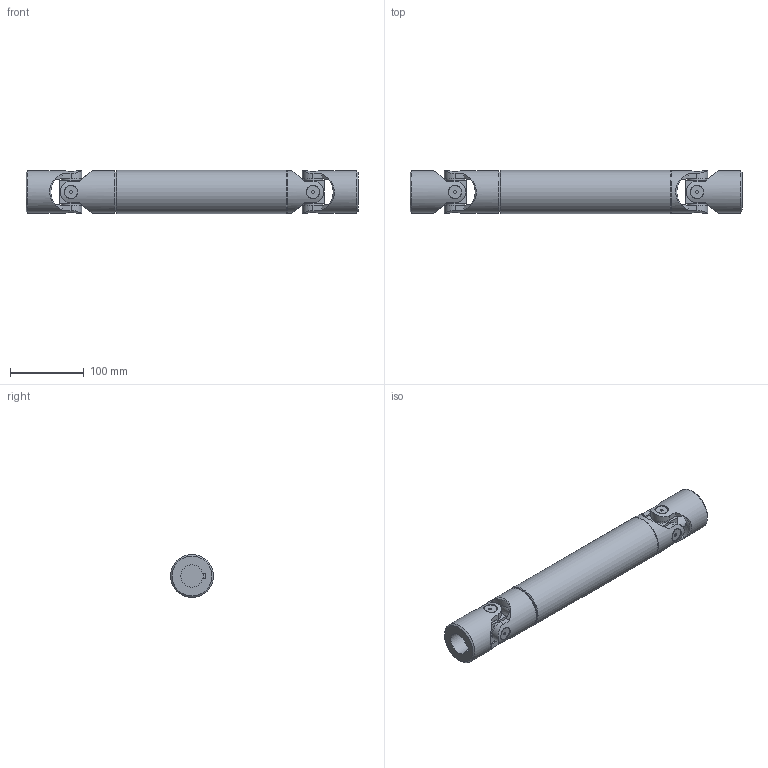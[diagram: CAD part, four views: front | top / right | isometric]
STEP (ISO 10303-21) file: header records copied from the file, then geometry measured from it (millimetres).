
FILE_DESCRIPTION(/* description */ (''),/* implementation_level */ '2;1');
FILE_NAME(/* name */ '\\SRV2016\societa\Stefano\Disegni 3D\00Catalogo 3D\03Trasmissioni standard GA\6GA23\6GA23_SG0A3023.stp',/* time_stamp */ '2022-02-07T13:16:12+01:00',/* author */ ('acquisti'),/* organization */ (''),/* preprocessor_version */ 'ST-DEVELOPER v15.6',/* originating_system */ 'Autodesk Inventor 2015',/* authorisation */ '');
FILE_SCHEMA (('AUTOMOTIVE_DESIGN { 1 0 10303 214 3 1 1 }'));
Length unit declared in the file: millimetre
Products named in the file (5): 6GA23 LAI; 6GA23 LCI; 6G MOC; 6G SFE; 6GA23_SG0A3023
Assembly tree (6 placements, depth 2):
  6GA23_SG0A3023
    6GA23 LAI
    6GA23 LCI
    6G MOC  x2
    6G SFE  x2
Bounding box: 450 x 58.5 x 58.5 mm (x, y, z)
Volume: 848474.4 mm3; surface area: 190388.3 mm2
Topology: 6 solids, 6 shells, 220 faces, 561 edges, 377 vertices
Faces by surface type: plane 114, cylinder 77, cone 25, torus 4
Full cylindrical faces by diameter (mm): 4 x8, 18 x8, 26 x8, 30 x1, 32 x2, 49 x1, 58 x4, 58.5 x1
Entity records: 5899 total; most frequent: CARTESIAN_POINT 1695, DIRECTION 847, ORIENTED_EDGE 832, EDGE_CURVE 416, AXIS2_PLACEMENT_3D 331, VERTEX_POINT 300, EDGE_LOOP 228, LINE 185
